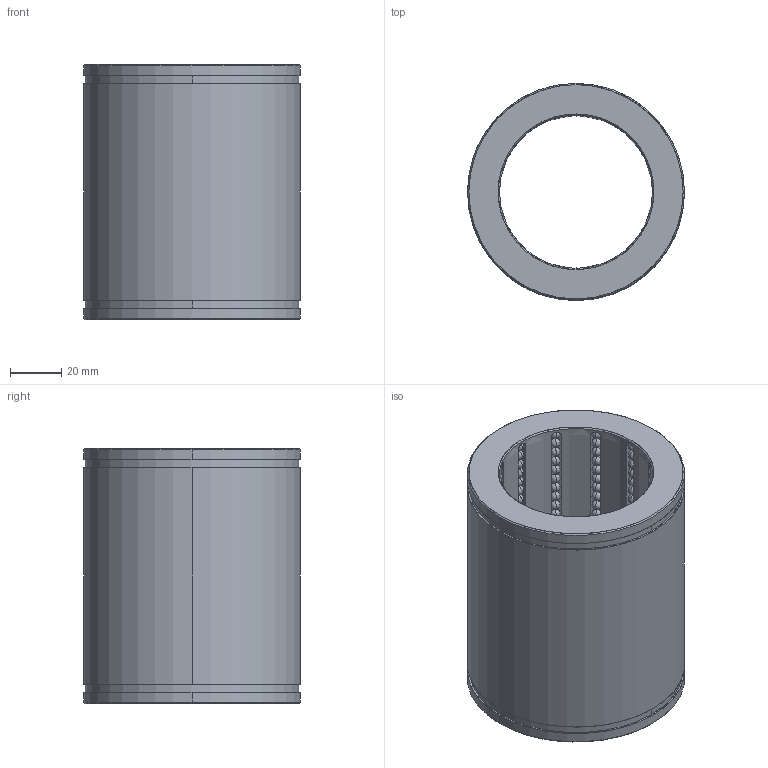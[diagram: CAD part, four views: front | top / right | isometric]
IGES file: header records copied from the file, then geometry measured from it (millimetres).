
Start section: START RECORD GO HERE.
Global section: file name: B80360100.igs; native system: DASSAULT SYSTEMES CATIA V5 R20 - www.3ds.com; preprocessor: CATIA Version 5 Release 20 ; author: Utente; organization: NB04-ASUS; date: 20200419.161945; units: millimetre
Bounding box: 85 x 85 x 100 mm (x, y, z)
Surface area: 74825.1 mm2 (no closed solid volume)
Topology: 0 solids, 0 shells, 1198 faces, 4868 edges, 2660 vertices
Faces by surface type: revolution 1156, plane 42
